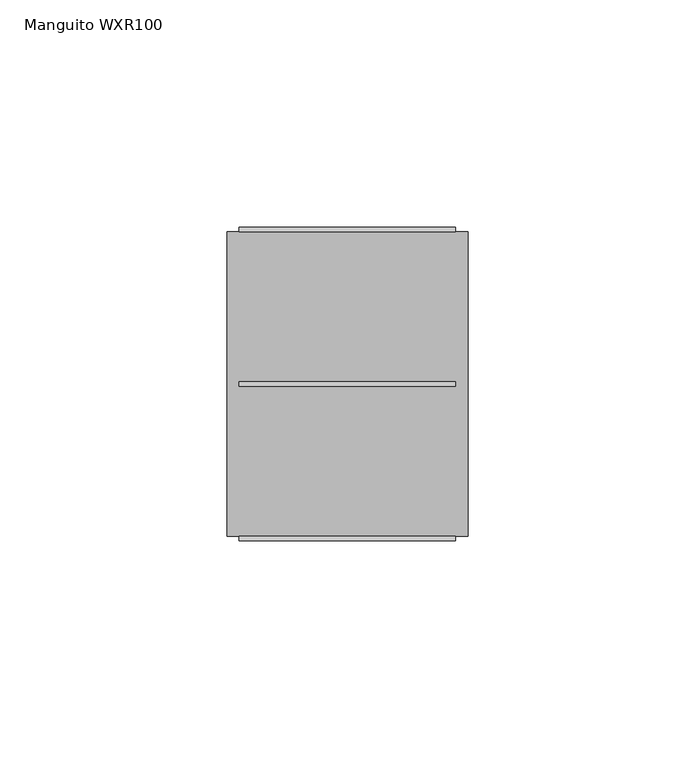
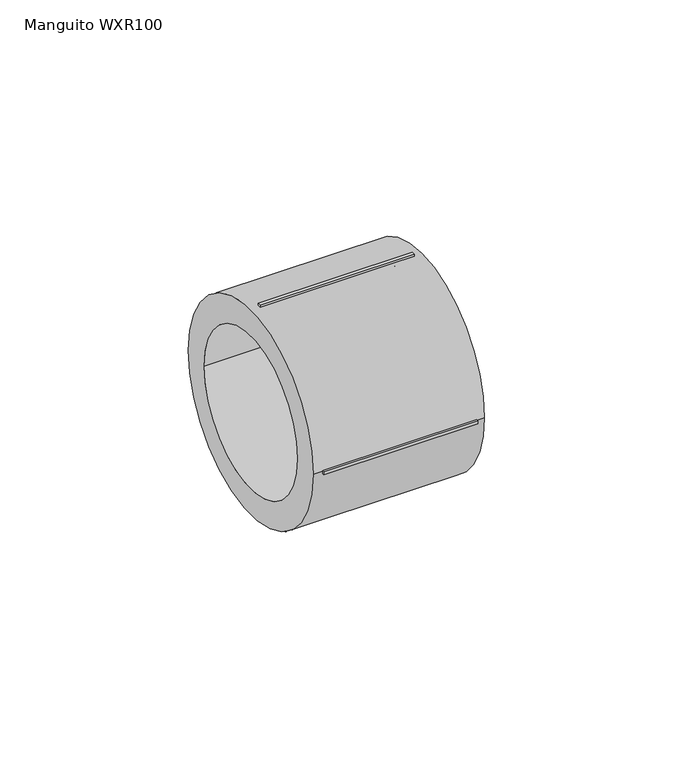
"""IFC4 building model written with IfcOpenShell, lengths in millimetres: pipe fitting geometry, EGB_VASEN_ PPR_Manguito WXR100 : Manguito WXR100."""

import ifcopenshell
import ifcopenshell.guid

model = None  # the IFC model being written
_history = None  # IfcOwnerHistory: only IFC2X3 demands one
_inside = {}  # id of a spatial element -> (the spatial element, [elements in it])
_under = {}  # id of a project, library or spatial element -> (it, [spatial elements below it])
_declared = {}  # id of a project -> (the project, [libraries it declares])
_typed = {}  # id of a type object -> (the type object, [elements of that type])
_made_of = {}  # id of a material, layer set ... -> (it, [elements and type objects made of it])


def new_model(schema):
    """Start an empty IFC model of exactly this schema.

    Asked for "IFC4X3", IfcOpenShell would pick the latest addendum, in which some entities
    have other attributes; the version numbers below select the first issue.
    IFC2X3 requires an IfcOwnerHistory on every rooted entity: one is made here for all.
    """
    global model, _history
    if schema == "IFC4X3":
        model = ifcopenshell.file(schema_version=(4, 3, 0, 0))
    else:
        model = ifcopenshell.file(schema=schema)
    _inside.clear()
    _under.clear()
    _declared.clear()
    _typed.clear()
    _made_of.clear()
    _history = None
    if model.schema == "IFC2X3":
        org = make("IfcOrganization", Name="unknown")
        user = make(
            "IfcPersonAndOrganization",
            ThePerson=make("IfcPerson", FamilyName="unknown"),
            TheOrganization=org,
        )
        app = make(
            "IfcApplication",
            ApplicationDeveloper=org,
            Version="unknown",
            ApplicationFullName="unknown",
            ApplicationIdentifier="unknown",
        )
        _history = make(
            "IfcOwnerHistory",
            OwningUser=user,
            OwningApplication=app,
            ChangeAction="ADDED",
            CreationDate=0,
        )
    return model


def make(cls, **values):
    """One entity of the class cls with the attributes given. An attribute that is None is left unset."""
    return model.create_entity(
        cls, **{name: value for name, value in values.items() if value is not None}
    )


def rooted(cls, **values):
    """An entity with a GlobalId (a new one), such as an element, a storey or a relation."""
    return make(cls, GlobalId=ifcopenshell.guid.new(), OwnerHistory=_history, **values)


def si_unit(unit_type, name, prefix=None):
    """IfcSIUnit, for example si_unit("LENGTHUNIT", "METRE", prefix="MILLI")."""
    return make("IfcSIUnit", UnitType=unit_type, Prefix=prefix, Name=name)


def assignment(units):
    """IfcUnitAssignment: the units of a project."""
    return None if units is None else make("IfcUnitAssignment", Units=units)


def point(xyz):
    """IfcCartesianPoint."""
    return None if xyz is None else make("IfcCartesianPoint", Coordinates=xyz)


def direction(xyz):
    """IfcDirection."""
    return None if xyz is None else make("IfcDirection", DirectionRatios=xyz)


def frame(location, z_axis=None, x_axis=None):
    """IfcAxis2Placement3D, a coordinate frame: its origin and axes. An axis left out is left unset."""
    return make(
        "IfcAxis2Placement3D",
        Location=point(location),
        Axis=direction(z_axis),
        RefDirection=direction(x_axis),
    )


def frame_2d(location, x_axis=None):
    """IfcAxis2Placement2D, a coordinate frame in the plane: its origin and x axis."""
    return make(
        "IfcAxis2Placement2D", Location=point(location), RefDirection=direction(x_axis)
    )


def origin():
    """The frame at (0, 0, 0) with its axes left unset."""
    return frame((0.0, 0.0, 0.0))


def origin_2d():
    """The frame at (0, 0) in the plane with its x axis left unset."""
    return frame_2d((0.0, 0.0))


def place(relative_to, where):
    """IfcLocalPlacement: puts the frame where relative to a parent placement (None: the world)."""
    return make(
        "IfcLocalPlacement", PlacementRelTo=relative_to, RelativePlacement=where
    )


def context(
    kind, dimensions, precision=None, world=None, true_north=None, identifier=None
):
    """IfcGeometricRepresentationContext, for example the 3D "Model" context."""
    return make(
        "IfcGeometricRepresentationContext",
        ContextIdentifier=identifier,
        ContextType=kind,
        CoordinateSpaceDimension=dimensions,
        Precision=precision,
        WorldCoordinateSystem=world,
        TrueNorth=true_north,
    )


def project(units=None, contexts=None):
    """IfcProject with its units and contexts."""
    return rooted(
        "IfcProject",
        Name="project",
        RepresentationContexts=contexts,
        UnitsInContext=assignment(units),
    )


def spatial(cls, under=None, at=None, **own):
    """A site, building, storey or space (cls), placed at a placement, below another one or the project."""
    s = rooted(cls, ObjectPlacement=at, **own)
    if under is not None:
        _under.setdefault(under.id(), (under, []))[1].append(s)
    return s


def polyline(points):
    """IfcPolyline through the points."""
    return make("IfcPolyline", Points=[point(p) for p in points])


def circle_curve(where, radius):
    """IfcCircle in the frame where."""
    return make("IfcCircle", Position=where, Radius=radius)


def trimmed(basis, trim1, trim2, sense, master):
    """IfcTrimmedCurve: the piece of a basis curve between two trims."""
    return make(
        "IfcTrimmedCurve",
        BasisCurve=basis,
        Trim1=trim1,
        Trim2=trim2,
        SenseAgreement=sense,
        MasterRepresentation=master,
    )


def segment(curve, same_sense, transition):
    """IfcCompositeCurveSegment."""
    return make(
        "IfcCompositeCurveSegment",
        Transition=transition,
        SameSense=same_sense,
        ParentCurve=curve,
    )


def composite_curve(segments, self_intersect=None):
    """IfcCompositeCurve: segments joined end to end."""
    return make("IfcCompositeCurve", Segments=segments, SelfIntersect=self_intersect)


def outline(outer, holes=None, kind="AREA"):
    """IfcArbitraryClosedProfileDef: a profile drawn as a closed curve; with holes, ...WithVoids."""
    if holes is None:
        return make("IfcArbitraryClosedProfileDef", ProfileType=kind, OuterCurve=outer)
    return make(
        "IfcArbitraryProfileDefWithVoids",
        ProfileType=kind,
        OuterCurve=outer,
        InnerCurves=holes,
    )


def extrude(swept, where, along, depth):
    """IfcExtrudedAreaSolid: the profile swept, set in the frame where, extruded along a direction by depth."""
    return make(
        "IfcExtrudedAreaSolid",
        SweptArea=swept,
        Position=where,
        ExtrudedDirection=direction(along),
        Depth=depth,
    )


def shape(context_of_items, identifier, shape_type, items):
    """IfcShapeRepresentation: the items that make up one representation, for example the "Body"."""
    return make(
        "IfcShapeRepresentation",
        ContextOfItems=context_of_items,
        RepresentationIdentifier=identifier,
        RepresentationType=shape_type,
        Items=items,
    )


def source(mapping_origin, context_of_items, identifier, shape_type, items):
    """IfcRepresentationMap: a shape defined once, which mapped items show again and again."""
    return make(
        "IfcRepresentationMap",
        MappingOrigin=mapping_origin,
        MappedRepresentation=shape(context_of_items, identifier, shape_type, items),
    )


def transform(
    local_origin,
    x_axis=None,
    y_axis=None,
    z_axis=None,
    scale=None,
    scale2=None,
    scale3=None,
    uniform=True,
):
    """IfcCartesianTransformationOperator3D, or its non-uniform kind. x_axis, y_axis, z_axis: its Axis1, 2, 3."""
    if uniform:
        return make(
            "IfcCartesianTransformationOperator3D",
            Axis1=direction(x_axis),
            Axis2=direction(y_axis),
            LocalOrigin=point(local_origin),
            Scale=scale,
            Axis3=direction(z_axis),
        )
    return make(
        "IfcCartesianTransformationOperator3DnonUniform",
        Axis1=direction(x_axis),
        Axis2=direction(y_axis),
        LocalOrigin=point(local_origin),
        Scale=scale,
        Axis3=direction(z_axis),
        Scale2=scale2,
        Scale3=scale3,
    )


def mapped(mapping_source, mapping_target):
    """IfcMappedItem: shows the shape of a source again, moved by a transform."""
    return make(
        "IfcMappedItem", MappingSource=mapping_source, MappingTarget=mapping_target
    )


def made_of(thing, what):
    """Note that an element or type object is made of a material, layer set ...; save() writes the relation."""
    if what is not None:
        _made_of.setdefault(what.id(), (what, []))[1].append(thing)
    return thing


def element(
    cls,
    number,
    at=None,
    inside=None,
    cuts=None,
    type_object=None,
    material=None,
    context=None,
    identifier="Body",
    shape_type=None,
    held_by="IfcProductDefinitionShape",
    body=None,
    shapes=None,
    **own,
):
    """One element of the class cls, such as IfcWall. Its Tag is "e" and its number.

    at: its placement. inside: the storey or other place that contains it. cuts: it is an
    opening in that element (IfcRelVoidsElement). A single representation is given by context,
    identifier, shape_type and body (its items); several are given by shapes. held_by: the class
    of the entity that holds the representations. save() writes the other relations.
    """
    e = rooted(cls, Tag="e%d" % number, ObjectPlacement=at, **own)
    if body is not None:
        shapes = [shape(context, identifier, shape_type, body)]
    if shapes is not None:
        e.Representation = make(held_by, Representations=shapes)
    if inside is not None:
        _inside.setdefault(inside.id(), (inside, []))[1].append(e)
    if cuts is not None:
        rooted(
            "IfcRelVoidsElement", RelatingBuildingElement=cuts, RelatedOpeningElement=e
        )
    if type_object is not None:
        _typed.setdefault(type_object.id(), (type_object, []))[1].append(e)
    return made_of(e, material)


def aggregate(whole, parts):
    """IfcRelAggregates: a whole, such as a stair, and the parts it consists of."""
    return rooted("IfcRelAggregates", RelatingObject=whole, RelatedObjects=parts)


def save(model, path):
    """Write the relations noted so far, then the file.

    IfcRelAggregates (storeys below a building ...), IfcRelContainedInSpatialStructure (elements
    in a storey), IfcRelDefinesByType, IfcRelAssociatesMaterial and IfcRelDeclares: one each for
    every whole, place, type object, material and project.
    """
    for whole, parts in _under.values():
        aggregate(whole, parts)
    for where, things in _inside.values():
        rooted(
            "IfcRelContainedInSpatialStructure",
            RelatedElements=things,
            RelatingStructure=where,
        )
    for kind, things in _typed.values():
        rooted("IfcRelDefinesByType", RelatedObjects=things, RelatingType=kind)
    for what, things in _made_of.values():
        rooted("IfcRelAssociatesMaterial", RelatedObjects=things, RelatingMaterial=what)
    for by, libraries in _declared.values():
        rooted("IfcRelDeclares", RelatingContext=by, RelatedDefinitions=libraries)
    model.write(path)


def manguito_wxr100_dcaeee78(model_context):
    return source(origin(), model_context, "Body", "SweptSolid", [
        extrude(outline(composite_curve([segment(trimmed(circle_curve(origin_2d(), 33.5), [point((-33.5, 0.0))], [point((33.5, 0.0))], False, "CARTESIAN"), True, "CONTINUOUS"), segment(trimmed(circle_curve(origin_2d(), 33.5), [point((33.5, 0.0))], [point((-33.5, 0.0))], False, "CARTESIAN"), True, "CONTINUOUS")], self_intersect=False), holes=[composite_curve([segment(trimmed(circle_curve(origin_2d(), 25.0), [point((-25.0, 0.0))], [point((25.0, 0.0))], True, "CARTESIAN"), True, "CONTINUOUS"), segment(trimmed(circle_curve(origin_2d(), 25.0), [point((25.0, 0.0))], [point((-25.0, 0.0))], True, "CARTESIAN"), True, "CONTINUOUS")], self_intersect=False)]), frame((-26.5, 0.0, 0.0), z_axis=(1.0, 0.0, 0.0), x_axis=(0.0, 1.0, 0.0)), (0.0, 0.0, 1.0), 53.0),
        extrude(outline(polyline([(23.85, 0.5), (23.85, -0.5), (-23.85, -0.5), (-23.85, 0.5), (23.85, 0.5)])), frame((0.0, 0.0, 32.5), z_axis=(0.0, 0.0, 1.0), x_axis=(1.0, 0.0, 0.0)), (0.0, 0.0, 1.0), 2.0),
        extrude(outline(polyline([(23.85, 0.5), (23.85, -0.5), (-23.85, -0.5), (-23.85, 0.5), (23.85, 0.5)])), frame((0.0, 0.0, -34.5), z_axis=(0.0, 0.0, 1.0), x_axis=(1.0, 0.0, 0.0)), (0.0, 0.0, 1.0), 2.0),
        extrude(outline(polyline([(23.85, 34.5), (23.85, 32.5), (-23.85, 32.5), (-23.85, 34.5), (23.85, 34.5)])), frame((0.0, 0.0, -0.5), z_axis=(0.0, 0.0, 1.0), x_axis=(1.0, 0.0, 0.0)), (0.0, 0.0, 1.0), 1.0),
        extrude(outline(polyline([(23.85, -32.5), (23.85, -34.5), (-23.85, -34.5), (-23.85, -32.5), (23.85, -32.5)])), frame((0.0, 0.0, -0.5), z_axis=(0.0, 0.0, 1.0), x_axis=(1.0, 0.0, 0.0)), (0.0, 0.0, 1.0), 1.0),
    ])


if __name__ == "__main__":
    model = new_model("IFC4")
    model_context = context("Model", 3, world=origin())
    ifc_project = project(units=[si_unit("LENGTHUNIT", "METRE", prefix="MILLI")], contexts=[model_context])
    site = spatial("IfcSite", under=ifc_project)
    building = spatial("IfcBuilding", under=site)
    placement = place(None, origin())
    manguito_wxr100_shape = manguito_wxr100_dcaeee78(model_context)
    element("IfcPipeFitting", 1, ObjectType="EGB_VASEN_ PPR_Manguito WXR100 : Manguito WXR100", at=placement, inside=building, context=model_context, shape_type="MappedRepresentation", body=[
        mapped(manguito_wxr100_shape, transform((0.0, 0.0, 0.0), x_axis=(1.0, 0.0, 0.0), y_axis=(0.0, 1.0, 0.0), z_axis=(0.0, 0.0, 1.0))),
    ])
    save(model, "model.ifc")
